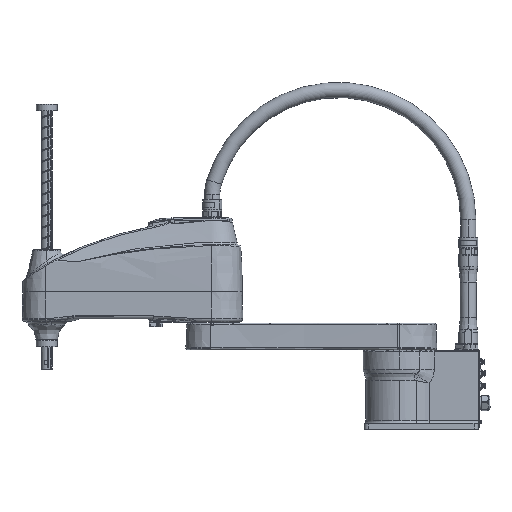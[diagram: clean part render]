
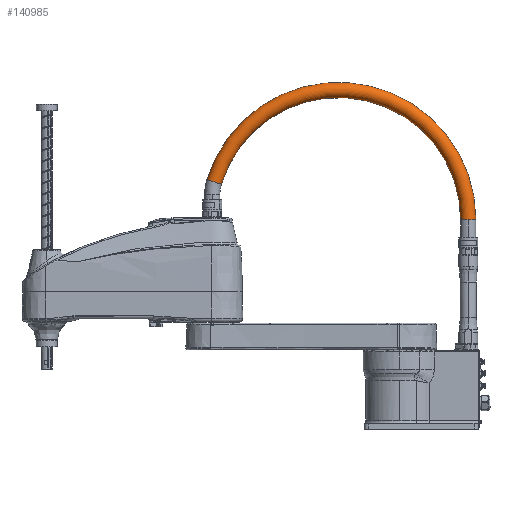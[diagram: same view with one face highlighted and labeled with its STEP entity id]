
A CAD part, top view. The second image highlights one B-rep face of the part: STEP entity #140985.
In plain terms, the highlighted toroidal (fillet/blend) face has major radius 294.224 mm and minor radius 17.25 mm.
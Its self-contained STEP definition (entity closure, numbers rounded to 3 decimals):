
#7249 = AXIS2_PLACEMENT_3D ( 'NONE', #102812, #104521, #24636 ) ;
#8090 = DIRECTION ( 'NONE',  ( 0., 1., 0. ) ) ;
#8380 = CARTESIAN_POINT ( 'NONE',  ( 101.59, 348.971, 0. ) ) ;
#14730 = DIRECTION ( 'NONE',  ( -0.292, -0.957, 0. ) ) ;
#18697 = DIRECTION ( 'NONE',  ( 0., 1., 0. ) ) ;
#19880 = VERTEX_POINT ( 'NONE', #64712 ) ;
#24527 = AXIS2_PLACEMENT_3D ( 'NONE', #82567, #14730, #159846 ) ;
#24636 = DIRECTION ( 'NONE',  ( 1., 0., 0. ) ) ;
#26519 = CIRCLE ( 'NONE', #7249, 311.474 ) ;
#26898 = AXIS2_PLACEMENT_3D ( 'NONE', #102943, #105490, #156149 ) ;
#38192 = FACE_OUTER_BOUND ( 'NONE', #64556, .T. ) ;
#41323 = EDGE_CURVE ( 'NONE', #160428, #51135, #26519, .T. ) ;
#51135 = VERTEX_POINT ( 'NONE', #112625 ) ;
#53027 = VERTEX_POINT ( 'NONE', #112414 ) ;
#60799 = DIRECTION ( 'NONE',  ( 0., 0., -1. ) ) ;
#64556 = EDGE_LOOP ( 'NONE', ( #163158, #68981, #75637, #139744, #137356 ) ) ;
#64712 = CARTESIAN_POINT ( 'NONE',  ( -457.56, 429.772, 0. ) ) ;
#65947 = EDGE_CURVE ( 'NONE', #53027, #106152, #167051, .T. ) ;
#66508 = CARTESIAN_POINT ( 'NONE',  ( 101.59, 348.971, 17.25 ) ) ;
#68981 = ORIENTED_EDGE ( 'NONE', *, *, #41323, .T. ) ;
#75637 = ORIENTED_EDGE ( 'NONE', *, *, #90931, .F. ) ;
#77730 = CARTESIAN_POINT ( 'NONE',  ( -192.634, 348.971, 0. ) ) ;
#79090 = EDGE_CURVE ( 'NONE', #106152, #160428, #157612, .T. ) ;
#82567 = CARTESIAN_POINT ( 'NONE',  ( -474.06, 434.804, 0. ) ) ;
#84950 = CARTESIAN_POINT ( 'NONE',  ( 118.84, 348.971, 0. ) ) ;
#89654 = CARTESIAN_POINT ( 'NONE',  ( 101.59, 348.971, 0. ) ) ;
#90931 = EDGE_CURVE ( 'NONE', #19880, #51135, #128761, .T. ) ;
#102812 = CARTESIAN_POINT ( 'NONE',  ( -192.634, 348.971, 0. ) ) ;
#102943 = CARTESIAN_POINT ( 'NONE',  ( -192.634, 348.971, 0. ) ) ;
#104521 = DIRECTION ( 'NONE',  ( 0., 0., 1. ) ) ;
#105490 = DIRECTION ( 'NONE',  ( 0., 0., 1. ) ) ;
#106152 = VERTEX_POINT ( 'NONE', #66508 ) ;
#112414 = CARTESIAN_POINT ( 'NONE',  ( 84.34, 348.971, 0. ) ) ;
#112625 = CARTESIAN_POINT ( 'NONE',  ( -490.559, 439.836, 0. ) ) ;
#116634 = TOROIDAL_SURFACE ( 'NONE', #122107, 294.224, 17.25 ) ;
#122107 = AXIS2_PLACEMENT_3D ( 'NONE', #77730, #156685, #130083 ) ;
#126737 = EDGE_CURVE ( 'NONE', #53027, #19880, #142163, .T. ) ;
#128761 = CIRCLE ( 'NONE', #24527, 17.25 ) ;
#130083 = DIRECTION ( 'NONE',  ( 1., 0., 0. ) ) ;
#130155 = AXIS2_PLACEMENT_3D ( 'NONE', #8380, #18697, #60799 ) ;
#137356 = ORIENTED_EDGE ( 'NONE', *, *, #65947, .T. ) ;
#139744 = ORIENTED_EDGE ( 'NONE', *, *, #126737, .F. ) ;
#140985 = ADVANCED_FACE ( 'NONE', ( #38192 ), #116634, .T. ) ;
#142013 = DIRECTION ( 'NONE',  ( 0., 0., -1. ) ) ;
#142163 = CIRCLE ( 'NONE', #26898, 276.974 ) ;
#156051 = AXIS2_PLACEMENT_3D ( 'NONE', #89654, #8090, #142013 ) ;
#156149 = DIRECTION ( 'NONE',  ( 1., 0., 0. ) ) ;
#156685 = DIRECTION ( 'NONE',  ( 0., 0., 1. ) ) ;
#157612 = CIRCLE ( 'NONE', #130155, 17.25 ) ;
#159846 = DIRECTION ( 'NONE',  ( 0., 0., -1. ) ) ;
#160428 = VERTEX_POINT ( 'NONE', #84950 ) ;
#163158 = ORIENTED_EDGE ( 'NONE', *, *, #79090, .T. ) ;
#167051 = CIRCLE ( 'NONE', #156051, 17.25 ) ;
